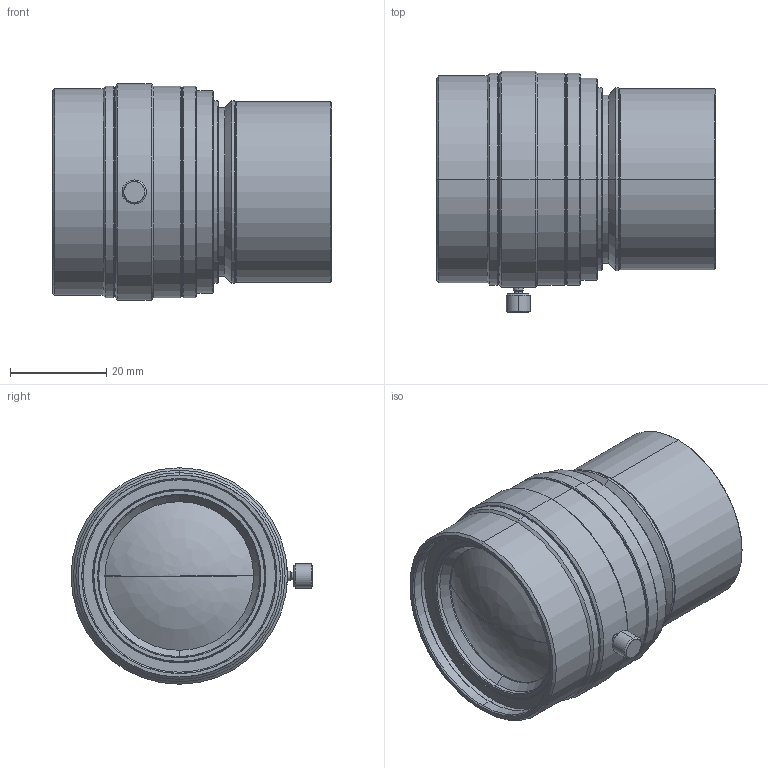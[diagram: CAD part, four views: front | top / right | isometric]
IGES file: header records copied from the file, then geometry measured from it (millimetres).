
Start section: SolidWorks IGES file using analytic representation for surfaces
Bounding box: 58 x 50.3 x 45 mm (x, y, z)
Surface area: 12721.7 mm2 (no closed solid volume)
Topology: 0 solids, 0 shells, 121 faces, 2222 edges, 2220 vertices
Faces by surface type: revolution 106, bspline 15
